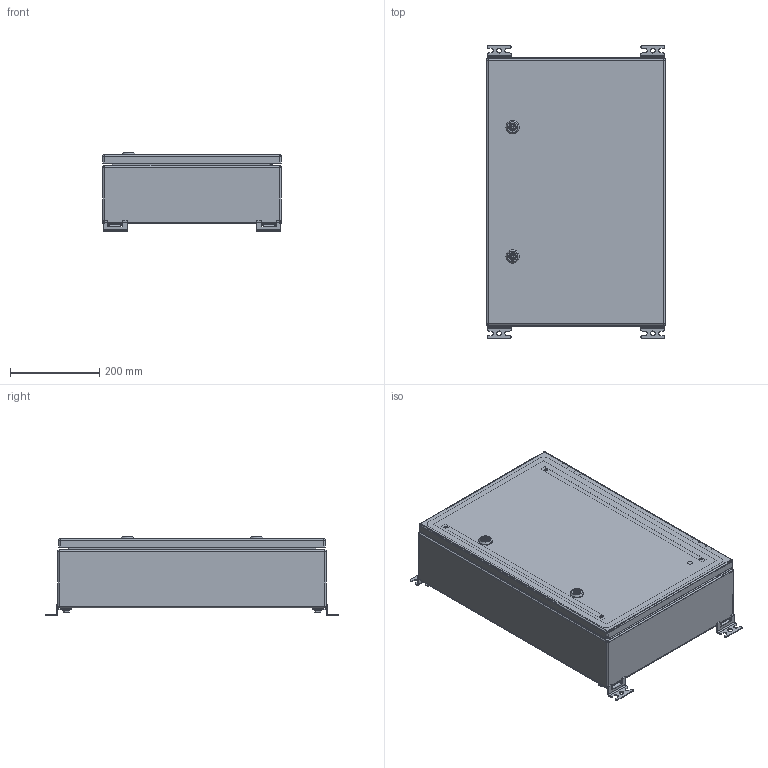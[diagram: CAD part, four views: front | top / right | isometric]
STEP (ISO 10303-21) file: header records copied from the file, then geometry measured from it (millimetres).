
FILE_DESCRIPTION(('STEP AP242'), '1');
FILE_NAME('400 ﾙﾌﾏ-1 (IP-56)', '', ('UNSPECIFIED'), ('UNSPECIFIED'), 'C3D Converter', 'C3D Toolkit', '');
FILE_SCHEMA(('AP242_MANAGED_MODEL_BASED_3D_ENGINEERING_MIM_LF { 1 0 10303 442 1 1 4 }'));
Length unit declared in the file: millimetre
Products named in the file (36): ЩМП-1 СБ; 410; 420; 421; 411; 412; 490; 491; 401; 440; 441; 402
Assembly tree (87 placements, depth 4):
  ЩМП-1 СБ
    410
      420
        421
        (unnamed)  x6
        (unnamed)
      411
      412
    490  x2
      491
      (unnamed)
      (unnamed)
      (unnamed)
      (unnamed)
      (unnamed)
    490  x2
      491
      (unnamed)
      (unnamed)
      (unnamed)
      (unnamed)
      (unnamed)
    401
    (unnamed)  x6
    (unnamed)  x6
    (unnamed)  x6
    (unnamed)  x2
      (unnamed)
      (unnamed)
      (unnamed)
    (unnamed)  x4
    440
      441
      (unnamed)
      (unnamed)  x4
      (unnamed)  x2
    402  x2
    (unnamed)  x4
    (unnamed)  x4
    (unnamed)  x2
      (unnamed)
      (unnamed)
      (unnamed)
      (unnamed)
      (unnamed)
    (unnamed)  x2
Bounding box: 400 x 656 x 178.1 mm (x, y, z)
Volume: 2020372.9 mm3; surface area: 2393160.8 mm2
Topology: 100 solids, 100 shells, 2158 faces, 5180 edges, 3272 vertices
Faces by surface type: plane 1192, cylinder 648, cone 176, extrusion 54, bspline 32, torus 28, sphere 28
Full cylindrical faces by diameter (mm): 0.5 x4, 2.6 x8, 3.5 x76, 4.2 x4, 4.917 x4, 5 x6, 5.5 x4, 5.8 x2, 6 x16, 6.4 x4, 6.647 x10, 7 x6, 7.3 x4, 7.5 x6, 8 x12, 8.4 x10, 8.5 x16, 9 x8, 10 x8, 10.4 x2, 10.5 x6, 11 x10, 11.4 x1, 11.5 x5, 12 x2, 12.3 x4, 15 x10, 15.5 x4, 15.8 x2, 16 x8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
Entity records: 63299 total; most frequent: CARTESIAN_POINT 34426, DIRECTION 4712, ORIENTED_EDGE 4596, EDGE_CURVE 2298, AXIS2_PLACEMENT_3D 1711, VERTEX_POINT 1528, EDGE_LOOP 1320, VECTOR 1290
